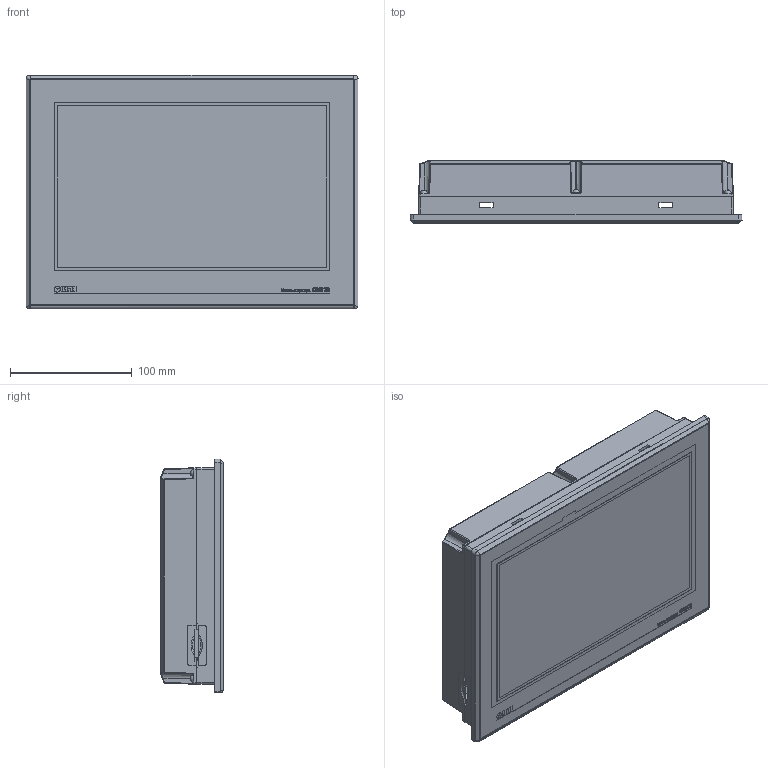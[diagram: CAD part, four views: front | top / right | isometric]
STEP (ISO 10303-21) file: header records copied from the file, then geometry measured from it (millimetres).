
FILE_DESCRIPTION (( 'STEP AP203' ), '1' );
FILE_NAME ('旆310-1.STEP', '2016-10-20T07:56:39', ( '' ), ( '' ), 'SwSTEP 2.0', 'SolidWorks 2014', '' );
FILE_SCHEMA (( 'CONFIG_CONTROL_DESIGN' ));
Length unit declared in the file: millimetre
Products named in the file (14): USB_A; 3x14 ++TT 17473-81-1; 抔樦檞-1; CONNECTOR RJ-45, 8P8C; usbBtop_¦þ ºüþû¢ðýø¦; 8_2; SW3dPS-mouser_806-kusbvx-bs1n-b; D_SUB_9p_vertM_DIGIKEY_609-1479-ND; TGA62-MT-SG-1309; 嵙錪踆旆310; 旆310-1; Tõÿõ¸ªþú_¨ üþù-1; THA65-MT-XG-100604; +ÿ¨ðòúð-û ¦þýªø¨ºõüþù ¢ð¸ªø_Dekson_5.08_3p_Vert-1
Assembly tree (21 placements, depth 3):
  旆310-1
    抔樦檞-1
      +ÿ¨ðòúð-û ¦þýªø¨ºõüþù ¢ð¸ªø_Dekson_5.08_3p_Vert-1
      Tõÿõ¸ªþú_¨ üþù-1  x3
    usbBtop_¦þ ºüþû¢ðýø¦
      SW3dPS-mouser_806-kusbvx-bs1n-b
    TGA62-MT-SG-1309
    THA65-MT-XG-100604
    D_SUB_9p_vertM_DIGIKEY_609-1479-ND  x2
    USB_A
    CONNECTOR RJ-45, 8P8C
    3x14 ++TT 17473-81-1  x6
    嵙錪踆旆310
    8_2
Bounding box: 272.2 x 51.2 x 191.68 mm (x, y, z)
Volume: 11561.9 mm3; surface area: 383573.1 mm2
Topology: 28 solids, 33 shells, 4208 faces, 11472 edges, 7459 vertices
Faces by surface type: plane 2809, cylinder 766, bspline 521, cone 92, torus 14, sphere 6
Entity records: 144789 total; most frequent: CARTESIAN_POINT 51022, ORIENTED_EDGE 20872, DIRECTION 16159, EDGE_CURVE 10454, VECTOR 7629, LINE 7629, VERTEX_POINT 6841, AXIS2_PLACEMENT_3D 4265
